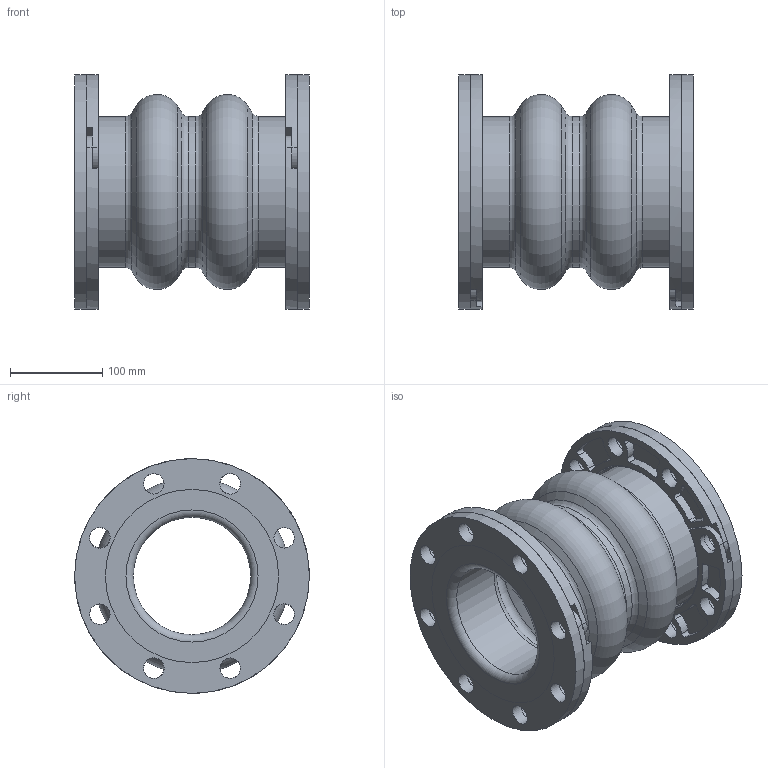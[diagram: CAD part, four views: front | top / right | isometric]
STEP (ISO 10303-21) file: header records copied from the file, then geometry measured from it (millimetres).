
FILE_DESCRIPTION(/* description */ (''),/* implementation_level */ '2;1');
FILE_NAME(/* name */ 'C:\001_Work\Designs\Mercer2014\MQInventor2014\RajR\700 Style\702\STP\702 5IDx10FF.stp',/* time_stamp */ '2016-04-10T12:51:42-04:00',/* author */ ('rramoutar'),/* organization */ ('Mason Industries Inc.'),/* preprocessor_version */ 'ST-DEVELOPER v15.6',/* originating_system */ 'Autodesk Inventor 2015',/* authorisation */ '');
FILE_SCHEMA (('CONFIG_CONTROL_DESIGN'));
Length unit declared in the file: inch
Products named in the file (1): 702 5IDx10FF
Bounding box: 254 x 254 x 254 mm (x, y, z)
Volume: 3852605 mm3; surface area: 618631.2 mm2
Topology: 5 solids, 5 shells, 280 faces, 730 edges, 480 vertices
Faces by surface type: cylinder 188, plane 62, torus 22, cone 8
Full cylindrical faces by diameter (mm): 22.225 x36, 127 x3, 163.512 x3, 254 x2
Entity records: 9064 total; most frequent: DIRECTION 1626, CARTESIAN_POINT 1593, ORIENTED_EDGE 1320, AXIS2_PLACEMENT_3D 701, EDGE_CURVE 660, VERTEX_POINT 476, EDGE_LOOP 440, CIRCLE 420
